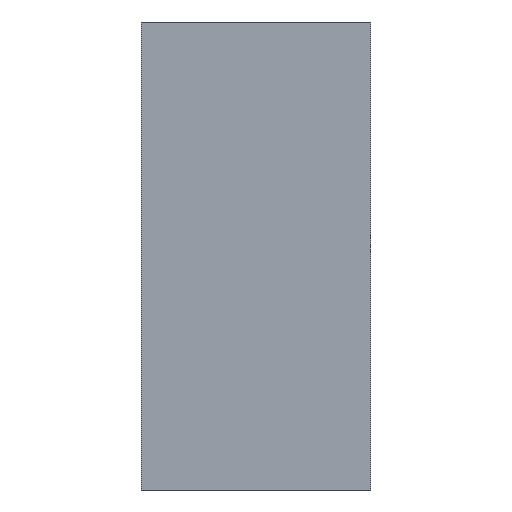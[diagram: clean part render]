
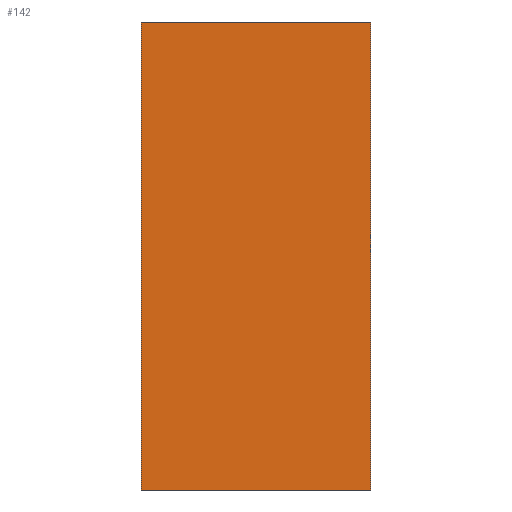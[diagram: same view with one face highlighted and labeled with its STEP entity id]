
A CAD part, front view. The second image highlights one B-rep face of the part: STEP entity #142.
In plain terms, the highlighted planar face has unit normal (0, -1, 0).
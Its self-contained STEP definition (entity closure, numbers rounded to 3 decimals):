
#2 = CARTESIAN_POINT ( 'NONE',  ( 96., 0., 196. ) ) ;
#4 = CARTESIAN_POINT ( 'NONE',  ( -96., 0., -196. ) ) ;
#6 = CARTESIAN_POINT ( 'NONE',  ( -96., 0., 196. ) ) ;
#19 = LINE ( 'NONE', #6, #183 ) ;
#20 = VERTEX_POINT ( 'NONE', #119 ) ;
#27 = ORIENTED_EDGE ( 'NONE', *, *, #146, .F. ) ;
#37 = DIRECTION ( 'NONE',  ( -1., 0., 0. ) ) ;
#38 = DIRECTION ( 'NONE',  ( 1., 0., 0. ) ) ;
#41 = VERTEX_POINT ( 'NONE', #106 ) ;
#48 = CARTESIAN_POINT ( 'NONE',  ( -96., 0., 196. ) ) ;
#55 = LINE ( 'NONE', #48, #102 ) ;
#63 = CARTESIAN_POINT ( 'NONE',  ( 0., 0., 0. ) ) ;
#65 = DIRECTION ( 'NONE',  ( 0., 0., 1. ) ) ;
#85 = DIRECTION ( 'NONE',  ( 0., 0., -1. ) ) ;
#86 = EDGE_CURVE ( 'NONE', #20, #100, #139, .T. ) ;
#91 = ORIENTED_EDGE ( 'NONE', *, *, #180, .F. ) ;
#100 = VERTEX_POINT ( 'NONE', #192 ) ;
#102 = VECTOR ( 'NONE', #65, 1000. ) ;
#103 = EDGE_CURVE ( 'NONE', #41, #20, #19, .T. ) ;
#104 = FACE_OUTER_BOUND ( 'NONE', #164, .T. ) ;
#106 = CARTESIAN_POINT ( 'NONE',  ( -96., 0., 196. ) ) ;
#107 = VERTEX_POINT ( 'NONE', #137 ) ;
#108 = AXIS2_PLACEMENT_3D ( 'NONE', #63, #170, #85 ) ;
#119 = CARTESIAN_POINT ( 'NONE',  ( 96., 0., 196. ) ) ;
#137 = CARTESIAN_POINT ( 'NONE',  ( -96., 0., -196. ) ) ;
#139 = LINE ( 'NONE', #2, #153 ) ;
#142 = ADVANCED_FACE ( 'NONE', ( #104 ), #152, .T. ) ;
#146 = EDGE_CURVE ( 'NONE', #100, #107, #147, .T. ) ;
#147 = LINE ( 'NONE', #4, #159 ) ;
#152 = PLANE ( 'NONE',  #108 ) ;
#153 = VECTOR ( 'NONE', #171, 1000. ) ;
#159 = VECTOR ( 'NONE', #37, 1000. ) ;
#160 = ORIENTED_EDGE ( 'NONE', *, *, #86, .F. ) ;
#164 = EDGE_LOOP ( 'NONE', ( #160, #173, #91, #27 ) ) ;
#170 = DIRECTION ( 'NONE',  ( 0., -1., 0. ) ) ;
#171 = DIRECTION ( 'NONE',  ( 0., 0., -1. ) ) ;
#173 = ORIENTED_EDGE ( 'NONE', *, *, #103, .F. ) ;
#180 = EDGE_CURVE ( 'NONE', #107, #41, #55, .T. ) ;
#183 = VECTOR ( 'NONE', #38, 1000. ) ;
#192 = CARTESIAN_POINT ( 'NONE',  ( 96., 0., -196. ) ) ;
